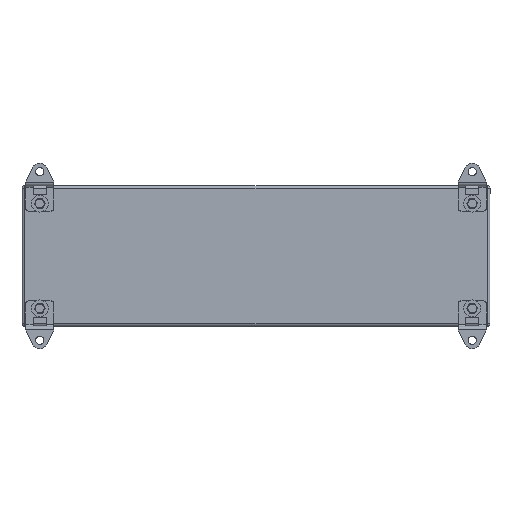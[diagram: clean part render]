
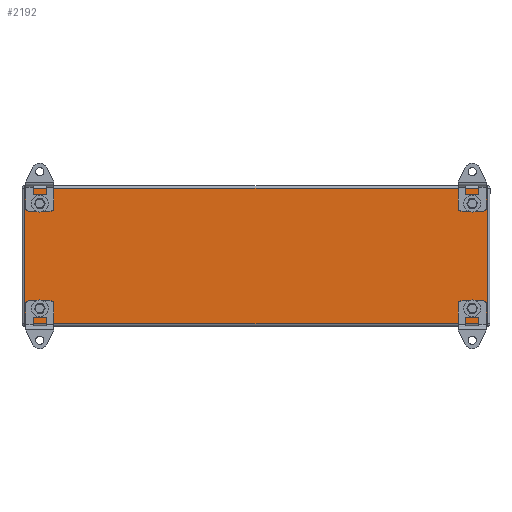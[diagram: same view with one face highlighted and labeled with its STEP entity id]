
A CAD part, left-side view. The second image highlights one B-rep face of the part: STEP entity #2192.
In plain terms, the highlighted planar face has unit normal (-1, 0, 0).
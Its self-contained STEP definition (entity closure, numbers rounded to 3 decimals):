
#2192=ADVANCED_FACE('',(#3158,#3160,#3162,#3164,#3166),#3168,.F.);
#3158=FACE_BOUND('',#3159,.T.);
#3159=EDGE_LOOP('',(#7437,#7438,#7439,#7440));
#3160=FACE_BOUND('',#3161,.T.);
#3161=EDGE_LOOP('',(#7441));
#3162=FACE_BOUND('',#3163,.T.);
#3163=EDGE_LOOP('',(#7442));
#3164=FACE_BOUND('',#3165,.T.);
#3165=EDGE_LOOP('',(#7443));
#3166=FACE_BOUND('',#3167,.T.);
#3167=EDGE_LOOP('',(#7444));
#3168=PLANE('',#3169);
#3169=AXIS2_PLACEMENT_3D('',#3170,#3171,#3172);
#3170=CARTESIAN_POINT('',(0.,0.,0.));
#3171=DIRECTION('',(1.,0.,0.));
#3172=DIRECTION('',(0.,1.,0.));
#7437=ORIENTED_EDGE('',*,*,#9196,.T.);
#7438=ORIENTED_EDGE('',*,*,#9197,.T.);
#7439=ORIENTED_EDGE('',*,*,#9198,.T.);
#7440=ORIENTED_EDGE('',*,*,#9199,.T.);
#7441=ORIENTED_EDGE('',*,*,#9127,.T.);
#7442=ORIENTED_EDGE('',*,*,#9128,.T.);
#7443=ORIENTED_EDGE('',*,*,#9129,.T.);
#7444=ORIENTED_EDGE('',*,*,#9130,.T.);
#9127=EDGE_CURVE('',#10106,#10106,#10107,.F.);
#9128=EDGE_CURVE('',#10108,#10108,#10109,.F.);
#9129=EDGE_CURVE('',#10110,#10110,#10111,.F.);
#9130=EDGE_CURVE('',#10112,#10112,#10113,.F.);
#9196=EDGE_CURVE('',#10220,#10221,#10222,.T.);
#9197=EDGE_CURVE('',#10221,#10223,#10224,.T.);
#9198=EDGE_CURVE('',#10223,#10225,#10226,.T.);
#9199=EDGE_CURVE('',#10225,#10220,#10227,.T.);
#10106=VERTEX_POINT('',#11770);
#10107=CIRCLE('',#11771,3.25);
#10108=VERTEX_POINT('',#11775);
#10109=CIRCLE('',#11776,3.25);
#10110=VERTEX_POINT('',#11780);
#10111=CIRCLE('',#11781,3.25);
#10112=VERTEX_POINT('',#11785);
#10113=CIRCLE('',#11786,3.25);
#10220=VERTEX_POINT('',#12031);
#10221=VERTEX_POINT('',#12032);
#10222=LINE('',#12033,#12034);
#10223=VERTEX_POINT('',#12036);
#10224=LINE('',#12037,#12038);
#10225=VERTEX_POINT('',#12040);
#10226=LINE('',#12041,#12042);
#10227=LINE('',#12044,#12045);
#11770=CARTESIAN_POINT('',(0.,227.75,56.));
#11771=AXIS2_PLACEMENT_3D('',#11772,#11773,#11774);
#11772=CARTESIAN_POINT('',(0.,231.,56.));
#11773=DIRECTION('',(-1.,0.,0.));
#11774=DIRECTION('',(0.,-1.,0.));
#11775=CARTESIAN_POINT('',(0.,-234.25,-56.));
#11776=AXIS2_PLACEMENT_3D('',#11777,#11778,#11779);
#11777=CARTESIAN_POINT('',(0.,-231.,-56.));
#11778=DIRECTION('',(-1.,0.,0.));
#11779=DIRECTION('',(0.,-1.,0.));
#11780=CARTESIAN_POINT('',(0.,227.75,-56.));
#11781=AXIS2_PLACEMENT_3D('',#11782,#11783,#11784);
#11782=CARTESIAN_POINT('',(0.,231.,-56.));
#11783=DIRECTION('',(-1.,0.,0.));
#11784=DIRECTION('',(0.,-1.,0.));
#11785=CARTESIAN_POINT('',(0.,-234.25,56.));
#11786=AXIS2_PLACEMENT_3D('',#11787,#11788,#11789);
#11787=CARTESIAN_POINT('',(0.,-231.,56.));
#11788=DIRECTION('',(-1.,0.,0.));
#11789=DIRECTION('',(0.,-1.,0.));
#12031=CARTESIAN_POINT('',(0.,247.2,72.2));
#12032=CARTESIAN_POINT('',(0.,247.2,-72.2));
#12033=CARTESIAN_POINT('',(0.,247.2,72.2));
#12034=VECTOR('',#12035,1.);
#12035=DIRECTION('',(0.,0.,-1.));
#12036=CARTESIAN_POINT('',(0.,-247.2,-72.2));
#12037=CARTESIAN_POINT('',(0.,247.2,-72.2));
#12038=VECTOR('',#12039,1.);
#12039=DIRECTION('',(0.,-1.,0.));
#12040=CARTESIAN_POINT('',(0.,-247.2,72.2));
#12041=CARTESIAN_POINT('',(0.,-247.2,-72.2));
#12042=VECTOR('',#12043,1.);
#12043=DIRECTION('',(0.,0.,1.));
#12044=CARTESIAN_POINT('',(0.,-247.2,72.2));
#12045=VECTOR('',#12046,1.);
#12046=DIRECTION('',(0.,1.,0.));
